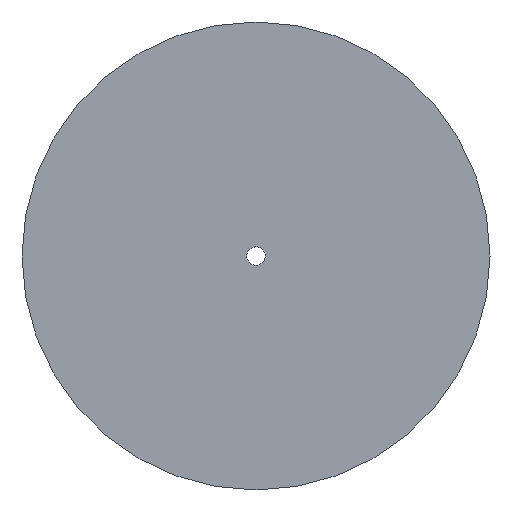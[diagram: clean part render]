
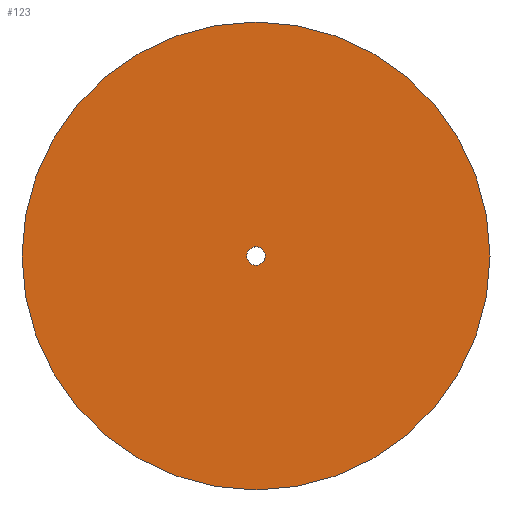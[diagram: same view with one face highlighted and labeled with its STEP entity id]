
A CAD part, top view. The second image highlights one B-rep face of the part: STEP entity #123.
In plain terms, the highlighted planar face has unit normal (0, 0, 1).
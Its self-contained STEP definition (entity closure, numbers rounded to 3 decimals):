
#62=CARTESIAN_POINT('Vertex',(-2.852,1.558,0.)) ;
#76=CARTESIAN_POINT('Vertex',(2.852,-1.558,0.)) ;
#79=CARTESIAN_POINT('Axis2P3D Location',(0.,0.,0.)) ;
#91=CARTESIAN_POINT('Axis2P3D Location',(0.,0.,0.)) ;
#96=CARTESIAN_POINT('Axis2P3D Location',(0.,0.,0.)) ;
#100=CARTESIAN_POINT('Vertex',(82.,0.,0.)) ;
#102=CARTESIAN_POINT('Vertex',(-82.,0.,0.)) ;
#105=CARTESIAN_POINT('Axis2P3D Location',(0.,0.,0.)) ;
#114=CARTESIAN_POINT('Axis2P3D Location',(0.,0.,0.)) ;
#80=DIRECTION('Axis2P3D Direction',(0.,-0.,-1.)) ;
#92=DIRECTION('Axis2P3D Direction',(0.,0.,1.)) ;
#93=DIRECTION('Axis2P3D XDirection',(1.,0.,0.)) ;
#97=DIRECTION('Axis2P3D Direction',(0.,0.,1.)) ;
#106=DIRECTION('Axis2P3D Direction',(0.,0.,1.)) ;
#115=DIRECTION('Axis2P3D Direction',(0.,0.,1.)) ;
#81=AXIS2_PLACEMENT_3D('Circle Axis2P3D',#79,#80,$) ;
#94=AXIS2_PLACEMENT_3D('Plane Axis2P3D',#91,#92,#93) ;
#98=AXIS2_PLACEMENT_3D('Circle Axis2P3D',#96,#97,$) ;
#107=AXIS2_PLACEMENT_3D('Circle Axis2P3D',#105,#106,$) ;
#116=AXIS2_PLACEMENT_3D('Circle Axis2P3D',#114,#115,$) ;
#111=ORIENTED_EDGE('',*,*,#104,.F.) ;
#112=ORIENTED_EDGE('',*,*,#109,.F.) ;
#120=ORIENTED_EDGE('',*,*,#118,.F.) ;
#121=ORIENTED_EDGE('',*,*,#83,.F.) ;
#122=FACE_BOUND('',#119,.T.) ;
#123=ADVANCED_FACE('PartBody',(#113,#122),#95,.T.) ;
#82=CIRCLE('generated circle',#81,3.25) ;
#99=CIRCLE('generated circle',#98,82.) ;
#108=CIRCLE('generated circle',#107,82.) ;
#117=CIRCLE('generated circle',#116,3.25) ;
#83=EDGE_CURVE('',#77,#63,#82,.F.) ;
#104=EDGE_CURVE('',#101,#103,#99,.F.) ;
#109=EDGE_CURVE('',#103,#101,#108,.F.) ;
#118=EDGE_CURVE('',#63,#77,#117,.T.) ;
#110=EDGE_LOOP('',(#111,#112)) ;
#119=EDGE_LOOP('',(#120,#121)) ;
#113=FACE_OUTER_BOUND('',#110,.T.) ;
#95=PLANE('',#94) ;
#63=VERTEX_POINT('',#62) ;
#77=VERTEX_POINT('',#76) ;
#101=VERTEX_POINT('',#100) ;
#103=VERTEX_POINT('',#102) ;
